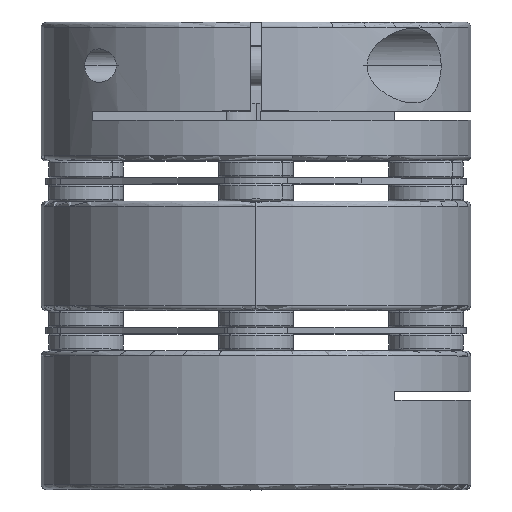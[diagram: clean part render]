
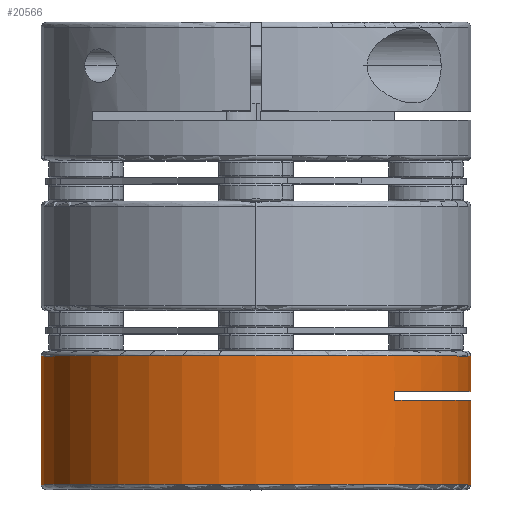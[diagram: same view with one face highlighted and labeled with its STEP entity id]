
A CAD part, top view. The second image highlights one B-rep face of the part: STEP entity #20566.
In plain terms, the highlighted cylindrical face has radius 21.25 mm (diameter 42.5 mm), a partial arc.
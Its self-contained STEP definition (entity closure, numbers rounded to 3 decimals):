
#2468 = VERTEX_POINT ( 'NONE', #7593 ) ;
#2586 = VERTEX_POINT ( 'NONE', #7470 ) ;
#2616 = VERTEX_POINT ( 'NONE', #7444 ) ;
#3013 = VERTEX_POINT ( 'NONE', #21188 ) ;
#3016 = VERTEX_POINT ( 'NONE', #21186 ) ;
#3500 = VERTEX_POINT ( 'NONE', #20755 ) ;
#3503 = VERTEX_POINT ( 'NONE', #20748 ) ;
#3559 = VERTEX_POINT ( 'NONE', #20686 ) ;
#7026 = FACE_OUTER_BOUND ( 'NONE', #21369, .T. ) ;
#7035 = CYLINDRICAL_SURFACE ( 'NONE', #9916, 21.25 ) ;
#7444 = CARTESIAN_POINT ( 'NONE',  ( -21.25, -4.5, 0. ) ) ;
#7470 = CARTESIAN_POINT ( 'NONE',  ( 21.25, -17.2, 0. ) ) ;
#7593 = CARTESIAN_POINT ( 'NONE',  ( -21.25, -17.2, 0. ) ) ;
#8025 = CIRCLE ( 'NONE', #12497, 21.25 ) ;
#8233 = LINE ( 'NONE', #13595, #8236 ) ;
#8236 = VECTOR ( 'NONE', #13614, 1000. ) ;
#8244 = LINE ( 'NONE', #13526, #8251 ) ;
#8251 = VECTOR ( 'NONE', #13540, 1000. ) ;
#8960 = AXIS2_PLACEMENT_3D ( 'NONE', #17967, #17956, #17955 ) ;
#9055 = AXIS2_PLACEMENT_3D ( 'NONE', #17960, #17959, #17957 ) ;
#9193 = AXIS2_PLACEMENT_3D ( 'NONE', #11647, #11648, #11649 ) ;
#9916 = AXIS2_PLACEMENT_3D ( 'NONE', #13504, #13501, #13496 ) ;
#11647 = CARTESIAN_POINT ( 'NONE',  ( 0., -17.2, 0. ) ) ;
#11648 = DIRECTION ( 'NONE',  ( 0., 1., 0. ) ) ;
#11649 = DIRECTION ( 'NONE',  ( -1., 0., 0. ) ) ;
#11783 = CARTESIAN_POINT ( 'NONE',  ( 13.738, -4., 16.212 ) ) ;
#11784 = DIRECTION ( 'NONE',  ( 0., 1., 0. ) ) ;
#12497 = AXIS2_PLACEMENT_3D ( 'NONE', #15974, #15973, #15972 ) ;
#12922 = EDGE_CURVE ( 'NONE', #3559, #2616, #8025, .T. ) ;
#13080 = EDGE_CURVE ( 'NONE', #3500, #2586, #8233, .T. ) ;
#13091 = EDGE_CURVE ( 'NONE', #2616, #2468, #8244, .T. ) ;
#13496 = DIRECTION ( 'NONE',  ( -1., 0., 0. ) ) ;
#13501 = DIRECTION ( 'NONE',  ( 0., -1., 0. ) ) ;
#13504 = CARTESIAN_POINT ( 'NONE',  ( 0., -4., 0. ) ) ;
#13526 = CARTESIAN_POINT ( 'NONE',  ( -21.25, -4., 0. ) ) ;
#13540 = DIRECTION ( 'NONE',  ( 0., -1., 0. ) ) ;
#13595 = CARTESIAN_POINT ( 'NONE',  ( 21.25, -4., 0. ) ) ;
#13614 = DIRECTION ( 'NONE',  ( 0., -1., 0. ) ) ;
#14868 = CIRCLE ( 'NONE', #8960, 21.25 ) ;
#14896 = LINE ( 'NONE', #18436, #14899 ) ;
#14899 = VECTOR ( 'NONE', #18435, 1000. ) ;
#15094 = CIRCLE ( 'NONE', #9055, 21.25 ) ;
#15391 = CIRCLE ( 'NONE', #9193, 21.25 ) ;
#15462 = LINE ( 'NONE', #11783, #15465 ) ;
#15465 = VECTOR ( 'NONE', #11784, 1000. ) ;
#15972 = DIRECTION ( 'NONE',  ( -1., 0., 0. ) ) ;
#15973 = DIRECTION ( 'NONE',  ( 0., -1., 0. ) ) ;
#15974 = CARTESIAN_POINT ( 'NONE',  ( 0., -4.5, 0. ) ) ;
#17117 = ORIENTED_EDGE ( 'NONE', *, *, #19392, .T. ) ;
#17126 = ORIENTED_EDGE ( 'NONE', *, *, #19172, .F. ) ;
#17127 = ORIENTED_EDGE ( 'NONE', *, *, #19443, .T. ) ;
#17128 = ORIENTED_EDGE ( 'NONE', *, *, #18981, .F. ) ;
#17129 = ORIENTED_EDGE ( 'NONE', *, *, #13080, .F. ) ;
#17145 = ORIENTED_EDGE ( 'NONE', *, *, #13091, .T. ) ;
#17147 = ORIENTED_EDGE ( 'NONE', *, *, #12922, .T. ) ;
#17148 = ORIENTED_EDGE ( 'NONE', *, *, #19019, .F. ) ;
#17955 = DIRECTION ( 'NONE',  ( 0., 0., 1. ) ) ;
#17956 = DIRECTION ( 'NONE',  ( 0., 1., 0. ) ) ;
#17957 = DIRECTION ( 'NONE',  ( 0., 0., -1. ) ) ;
#17959 = DIRECTION ( 'NONE',  ( 0., -1., 0. ) ) ;
#17960 = CARTESIAN_POINT ( 'NONE',  ( 0., -8., 0. ) ) ;
#17967 = CARTESIAN_POINT ( 'NONE',  ( 0., -8.9, 0. ) ) ;
#18435 = DIRECTION ( 'NONE',  ( 0., -1., 0. ) ) ;
#18436 = CARTESIAN_POINT ( 'NONE',  ( 21.25, -4., 0. ) ) ;
#18981 = EDGE_CURVE ( 'NONE', #3016, #3500, #14868, .T. ) ;
#19019 = EDGE_CURVE ( 'NONE', #3559, #3503, #14896, .T. ) ;
#19172 = EDGE_CURVE ( 'NONE', #3503, #3013, #15094, .T. ) ;
#19392 = EDGE_CURVE ( 'NONE', #2468, #2586, #15391, .T. ) ;
#19443 = EDGE_CURVE ( 'NONE', #3016, #3013, #15462, .T. ) ;
#20566 = ADVANCED_FACE ( 'NONE', ( #7026 ), #7035, .T. ) ;
#20686 = CARTESIAN_POINT ( 'NONE',  ( 21.25, -4.5, 0. ) ) ;
#20748 = CARTESIAN_POINT ( 'NONE',  ( 21.25, -8., 0. ) ) ;
#20755 = CARTESIAN_POINT ( 'NONE',  ( 21.25, -8.9, 0. ) ) ;
#21186 = CARTESIAN_POINT ( 'NONE',  ( 13.738, -8.9, 16.212 ) ) ;
#21188 = CARTESIAN_POINT ( 'NONE',  ( 13.738, -8., 16.212 ) ) ;
#21369 = EDGE_LOOP ( 'NONE', ( #17148, #17147, #17145, #17117, #17129, #17128, #17127, #17126 ) ) ;
